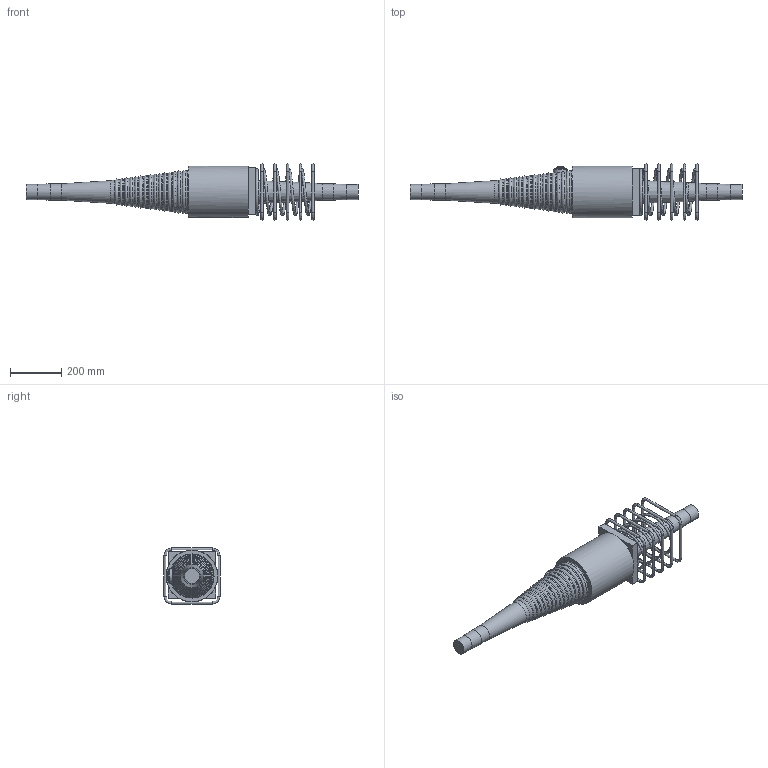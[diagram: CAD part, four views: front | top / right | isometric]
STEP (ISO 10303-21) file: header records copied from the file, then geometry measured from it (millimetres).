
FILE_DESCRIPTION(/* description */ (''),/* implementation_level */ '2;1');
FILE_NAME(/* name */ 'Z:\04 Publications\05 Give-out\BBR\6_3D_Models\BBR VT CONA CMI\BBR VT CONA CMI SP\00506\BBR VT CONA CMI SP 506_Coupler H Assembly_CS-34,28.stp',/* time_stamp */ '2017-05-05T13:59:41+02:00',/* author */ ('IP'),/* organization */ (''),/* preprocessor_version */ 'ST-DEVELOPER v16.1',/* originating_system */ 'Autodesk Inventor 2016',/* authorisation */ '');
FILE_SCHEMA (('AUTOMOTIVE_DESIGN { 1 0 10303 214 3 1 1 }'));
Length unit declared in the file: millimetre
Products named in the file (1): BBR VT CONA CMI SP 506_Coupler H Assembly_CS-34,28
Bounding box: 1300.87 x 220 x 220 mm (x, y, z)
Volume: 16304517.2 mm3; surface area: 737778.8 mm2
Topology: 7 solids, 7 shells, 850 faces, 2201 edges, 1420 vertices
Faces by surface type: bspline 399, plane 259, cylinder 89, torus 74, cone 17, sphere 12
Full cylindrical faces by diameter (mm): 10 x20, 34 x1, 57 x1, 59 x2, 64 x2, 203 x1
Entity records: 37221 total; most frequent: CARTESIAN_POINT 19076, ORIENTED_EDGE 4182, DIRECTION 2591, EDGE_CURVE 2090, VERTEX_POINT 1415, EDGE_LOOP 1022, LINE 897, VECTOR 897
